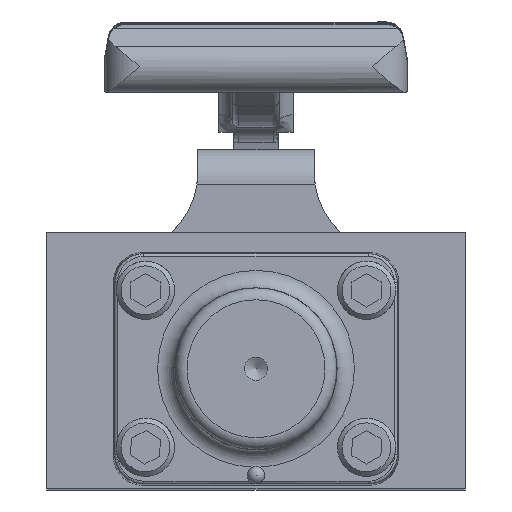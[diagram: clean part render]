
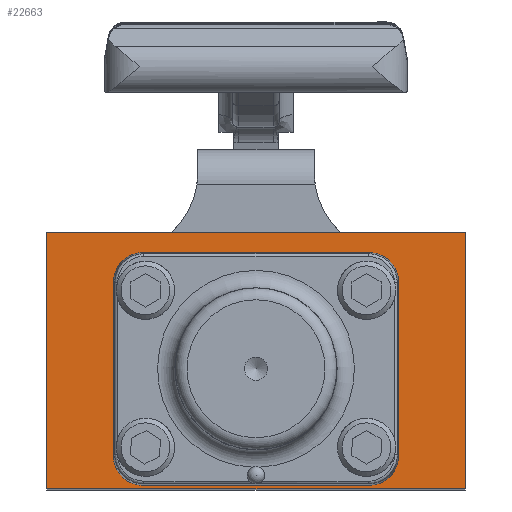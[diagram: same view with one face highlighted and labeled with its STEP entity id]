
A CAD part, top view. The second image highlights one B-rep face of the part: STEP entity #22663.
In plain terms, the highlighted planar face has unit normal (0, 0, 1).
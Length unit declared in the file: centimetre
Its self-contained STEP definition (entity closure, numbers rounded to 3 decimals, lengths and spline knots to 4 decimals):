
#1718=FACE_BOUND('',#4562,.T.);
#3010=FACE_OUTER_BOUND('',#4561,.T.);
#4561=EDGE_LOOP('',(#19450,#19451,#19452,#19453));
#4562=EDGE_LOOP('',(#19454,#19455,#19456,#19457,#19458,#19459,#19460,#19461));
#5162=CIRCLE('',#23619,0.4064);
#5164=CIRCLE('',#23623,0.4064);
#5166=CIRCLE('',#23627,0.4064);
#5168=CIRCLE('',#23631,0.4064);
#6028=LINE('',#35053,#7500);
#6033=LINE('',#35067,#7505);
#6037=LINE('',#35079,#7509);
#6042=LINE('',#35092,#7514);
#6619=LINE('',#40533,#8091);
#6623=LINE('',#40568,#8095);
#6654=LINE('',#40985,#8126);
#6895=LINE('',#42400,#8367);
#7500=VECTOR('',#26978,3.0759);
#7505=VECTOR('',#26991,2.3622);
#7509=VECTOR('',#27003,3.0759);
#7514=VECTOR('',#27016,2.3622);
#8091=VECTOR('',#29283,5.715);
#8095=VECTOR('',#29323,5.715);
#8126=VECTOR('',#29524,3.4925);
#8367=VECTOR('',#29911,3.4925);
#9196=VERTEX_POINT('',#35051);
#9197=VERTEX_POINT('',#35052);
#9200=VERTEX_POINT('',#35060);
#9202=VERTEX_POINT('',#35066);
#9204=VERTEX_POINT('',#35072);
#9206=VERTEX_POINT('',#35078);
#9208=VERTEX_POINT('',#35085);
#9210=VERTEX_POINT('',#35091);
#10029=VERTEX_POINT('',#40529);
#10031=VERTEX_POINT('',#40532);
#10042=VERTEX_POINT('',#40564);
#10044=VERTEX_POINT('',#40567);
#11599=EDGE_CURVE('',#9196,#9197,#6028,.T.);
#11603=EDGE_CURVE('',#9200,#9196,#5162,.T.);
#11606=EDGE_CURVE('',#9202,#9200,#6033,.T.);
#11609=EDGE_CURVE('',#9204,#9202,#5164,.T.);
#11612=EDGE_CURVE('',#9206,#9204,#6037,.T.);
#11616=EDGE_CURVE('',#9208,#9206,#5166,.T.);
#11619=EDGE_CURVE('',#9210,#9208,#6042,.T.);
#11622=EDGE_CURVE('',#9197,#9210,#5168,.T.);
#12830=EDGE_CURVE('',#10031,#10029,#6619,.T.);
#12843=EDGE_CURVE('',#10044,#10042,#6623,.T.);
#12932=EDGE_CURVE('',#10042,#10031,#6654,.T.);
#13265=EDGE_CURVE('',#10029,#10044,#6895,.T.);
#19450=ORIENTED_EDGE('',*,*,#12830,.T.);
#19451=ORIENTED_EDGE('',*,*,#13265,.T.);
#19452=ORIENTED_EDGE('',*,*,#12843,.T.);
#19453=ORIENTED_EDGE('',*,*,#12932,.T.);
#19454=ORIENTED_EDGE('',*,*,#11622,.F.);
#19455=ORIENTED_EDGE('',*,*,#11599,.F.);
#19456=ORIENTED_EDGE('',*,*,#11603,.F.);
#19457=ORIENTED_EDGE('',*,*,#11606,.F.);
#19458=ORIENTED_EDGE('',*,*,#11609,.F.);
#19459=ORIENTED_EDGE('',*,*,#11612,.F.);
#19460=ORIENTED_EDGE('',*,*,#11616,.F.);
#19461=ORIENTED_EDGE('',*,*,#11619,.F.);
#20217=PLANE('',#24721);
#22663=ADVANCED_FACE('',(#3010,#1718),#20217,.T.);
#23619=AXIS2_PLACEMENT_3D('',#35061,#26984,#26985);
#23623=AXIS2_PLACEMENT_3D('',#35073,#26996,#26997);
#23627=AXIS2_PLACEMENT_3D('',#35086,#27009,#27010);
#23631=AXIS2_PLACEMENT_3D('',#35097,#27021,#27022);
#24721=AXIS2_PLACEMENT_3D('',#43293,#30253,#30254);
#26978=DIRECTION('',(-1.,0.,0.));
#26984=DIRECTION('center_axis',(0.,0.,
1.));
#26985=DIRECTION('ref_axis',(0.,-1.,0.));
#26991=DIRECTION('',(0.,1.,0.));
#26996=DIRECTION('center_axis',(0.,0.,
1.));
#26997=DIRECTION('ref_axis',(-1.,0.,0.));
#27003=DIRECTION('',(1.,0.,0.));
#27009=DIRECTION('center_axis',(0.,0.,
1.));
#27010=DIRECTION('ref_axis',(0.,1.,0.));
#27016=DIRECTION('',(0.,-1.,0.));
#27021=DIRECTION('center_axis',(0.,0.,
1.));
#27022=DIRECTION('ref_axis',(1.,0.,0.));
#29283=DIRECTION('',(-1.,0.,0.));
#29323=DIRECTION('',(1.,0.,0.));
#29524=DIRECTION('',(0.,1.,0.));
#29911=DIRECTION('',(0.,-1.,0.));
#30253=DIRECTION('center_axis',(0.,0.,1.));
#30254=DIRECTION('ref_axis',(1.,0.,0.));
#35051=CARTESIAN_POINT('',(1.538,1.5875,4.7104));
#35052=CARTESIAN_POINT('',(-1.538,1.5875,4.7104));
#35053=CARTESIAN_POINT('',(1.538,1.5875,4.7104));
#35060=CARTESIAN_POINT('',(1.9444,1.1811,4.7104));
#35061=CARTESIAN_POINT('Origin',(1.538,1.1811,4.7104));
#35066=CARTESIAN_POINT('',(1.9444,-1.1811,4.7104));
#35067=CARTESIAN_POINT('',(1.9444,-1.1811,4.7104));
#35072=CARTESIAN_POINT('',(1.538,-1.5875,4.7104));
#35073=CARTESIAN_POINT('Origin',(1.538,-1.1811,4.7104));
#35078=CARTESIAN_POINT('',(-1.538,-1.5875,4.7104));
#35079=CARTESIAN_POINT('',(-1.538,-1.5875,4.7104));
#35085=CARTESIAN_POINT('',(-1.9444,-1.1811,4.7104));
#35086=CARTESIAN_POINT('Origin',(-1.538,-1.1811,4.7104));
#35091=CARTESIAN_POINT('',(-1.9444,1.1811,4.7104));
#35092=CARTESIAN_POINT('',(-1.9444,1.1811,4.7104));
#35097=CARTESIAN_POINT('Origin',(-1.538,1.1811,4.7104));
#40529=CARTESIAN_POINT('',(-2.8575,1.8567,4.7104));
#40532=CARTESIAN_POINT('',(2.8575,1.8567,4.7104));
#40533=CARTESIAN_POINT('',(2.8575,1.8567,4.7104));
#40564=CARTESIAN_POINT('',(2.8575,-1.6358,4.7104));
#40567=CARTESIAN_POINT('',(-2.8575,-1.6358,4.7104));
#40568=CARTESIAN_POINT('',(2.8575,-1.6358,4.7104));
#40985=CARTESIAN_POINT('',(2.8575,0.,4.7104));
#42400=CARTESIAN_POINT('',(-2.8575,0.,4.7104));
#43293=CARTESIAN_POINT('Origin',(2.8575,0.,4.7104));
